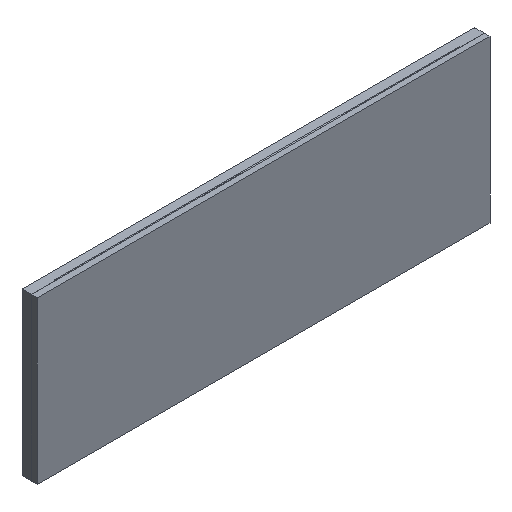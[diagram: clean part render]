
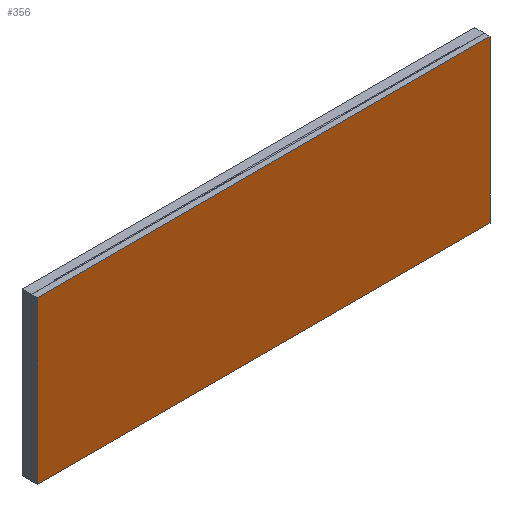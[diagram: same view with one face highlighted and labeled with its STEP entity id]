
A CAD part, isometric view. The second image highlights one B-rep face of the part: STEP entity #356.
In plain terms, the highlighted planar face has unit normal (0, -1, 0).
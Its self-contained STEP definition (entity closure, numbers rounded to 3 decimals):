
#69 = PLANE('',#70);
#70 = AXIS2_PLACEMENT_3D('',#71,#72,#73);
#71 = CARTESIAN_POINT('',(-28.,12.5,-10.));
#72 = DIRECTION('',(1.,0.,0.));
#73 = DIRECTION('',(0.,0.,1.));
#95 = PLANE('',#96);
#96 = AXIS2_PLACEMENT_3D('',#97,#98,#99);
#97 = CARTESIAN_POINT('',(-28.,12.5,10.));
#98 = DIRECTION('',(0.,0.,1.));
#99 = DIRECTION('',(1.,0.,0.));
#121 = PLANE('',#122);
#122 = AXIS2_PLACEMENT_3D('',#123,#124,#125);
#123 = CARTESIAN_POINT('',(28.,12.5,-10.));
#124 = DIRECTION('',(1.,0.,0.));
#125 = DIRECTION('',(0.,0.,1.));
#145 = PLANE('',#146);
#146 = AXIS2_PLACEMENT_3D('',#147,#148,#149);
#147 = CARTESIAN_POINT('',(-28.,12.5,-10.));
#148 = DIRECTION('',(0.,0.,1.));
#149 = DIRECTION('',(1.,0.,0.));
#160 = VERTEX_POINT('',#161);
#161 = CARTESIAN_POINT('',(-28.,12.5,10.));
#182 = EDGE_CURVE('',#183,#160,#185,.T.);
#183 = VERTEX_POINT('',#184);
#184 = CARTESIAN_POINT('',(-28.,12.5,-10.));
#185 = SURFACE_CURVE('',#186,(#190,#197),.PCURVE_S1.);
#186 = LINE('',#187,#188);
#187 = CARTESIAN_POINT('',(-28.,12.5,-10.));
#188 = VECTOR('',#189,1.);
#189 = DIRECTION('',(0.,0.,1.));
#190 = PCURVE('',#69,#191);
#191 = DEFINITIONAL_REPRESENTATION('',(#192),#196);
#192 = LINE('',#193,#194);
#193 = CARTESIAN_POINT('',(0.,0.));
#194 = VECTOR('',#195,1.);
#195 = DIRECTION('',(1.,0.));
#196 = ( GEOMETRIC_REPRESENTATION_CONTEXT(2) 
PARAMETRIC_REPRESENTATION_CONTEXT() REPRESENTATION_CONTEXT('2D SPACE',''
  ) );
#197 = PCURVE('',#198,#203);
#198 = PLANE('',#199);
#199 = AXIS2_PLACEMENT_3D('',#200,#201,#202);
#200 = CARTESIAN_POINT('',(-28.,12.5,-10.));
#201 = DIRECTION('',(0.,1.,0.));
#202 = DIRECTION('',(0.,0.,1.));
#203 = DEFINITIONAL_REPRESENTATION('',(#204),#208);
#204 = LINE('',#205,#206);
#205 = CARTESIAN_POINT('',(0.,0.));
#206 = VECTOR('',#207,1.);
#207 = DIRECTION('',(1.,0.));
#208 = ( GEOMETRIC_REPRESENTATION_CONTEXT(2) 
PARAMETRIC_REPRESENTATION_CONTEXT() REPRESENTATION_CONTEXT('2D SPACE',''
  ) );
#236 = EDGE_CURVE('',#183,#237,#239,.T.);
#237 = VERTEX_POINT('',#238);
#238 = CARTESIAN_POINT('',(28.,12.5,-10.));
#239 = SURFACE_CURVE('',#240,(#244,#251),.PCURVE_S1.);
#240 = LINE('',#241,#242);
#241 = CARTESIAN_POINT('',(-28.,12.5,-10.));
#242 = VECTOR('',#243,1.);
#243 = DIRECTION('',(1.,0.,0.));
#244 = PCURVE('',#145,#245);
#245 = DEFINITIONAL_REPRESENTATION('',(#246),#250);
#246 = LINE('',#247,#248);
#247 = CARTESIAN_POINT('',(0.,0.));
#248 = VECTOR('',#249,1.);
#249 = DIRECTION('',(1.,0.));
#250 = ( GEOMETRIC_REPRESENTATION_CONTEXT(2) 
PARAMETRIC_REPRESENTATION_CONTEXT() REPRESENTATION_CONTEXT('2D SPACE',''
  ) );
#251 = PCURVE('',#198,#252);
#252 = DEFINITIONAL_REPRESENTATION('',(#253),#257);
#253 = LINE('',#254,#255);
#254 = CARTESIAN_POINT('',(0.,0.));
#255 = VECTOR('',#256,1.);
#256 = DIRECTION('',(0.,1.));
#257 = ( GEOMETRIC_REPRESENTATION_CONTEXT(2) 
PARAMETRIC_REPRESENTATION_CONTEXT() REPRESENTATION_CONTEXT('2D SPACE',''
  ) );
#285 = VERTEX_POINT('',#286);
#286 = CARTESIAN_POINT('',(28.,12.5,10.));
#307 = EDGE_CURVE('',#237,#285,#308,.T.);
#308 = SURFACE_CURVE('',#309,(#313,#320),.PCURVE_S1.);
#309 = LINE('',#310,#311);
#310 = CARTESIAN_POINT('',(28.,12.5,-10.));
#311 = VECTOR('',#312,1.);
#312 = DIRECTION('',(0.,0.,1.));
#313 = PCURVE('',#121,#314);
#314 = DEFINITIONAL_REPRESENTATION('',(#315),#319);
#315 = LINE('',#316,#317);
#316 = CARTESIAN_POINT('',(0.,0.));
#317 = VECTOR('',#318,1.);
#318 = DIRECTION('',(1.,0.));
#319 = ( GEOMETRIC_REPRESENTATION_CONTEXT(2) 
PARAMETRIC_REPRESENTATION_CONTEXT() REPRESENTATION_CONTEXT('2D SPACE',''
  ) );
#320 = PCURVE('',#198,#321);
#321 = DEFINITIONAL_REPRESENTATION('',(#322),#326);
#322 = LINE('',#323,#324);
#323 = CARTESIAN_POINT('',(0.,56.));
#324 = VECTOR('',#325,1.);
#325 = DIRECTION('',(1.,0.));
#326 = ( GEOMETRIC_REPRESENTATION_CONTEXT(2) 
PARAMETRIC_REPRESENTATION_CONTEXT() REPRESENTATION_CONTEXT('2D SPACE',''
  ) );
#334 = EDGE_CURVE('',#160,#285,#335,.T.);
#335 = SURFACE_CURVE('',#336,(#340,#347),.PCURVE_S1.);
#336 = LINE('',#337,#338);
#337 = CARTESIAN_POINT('',(-28.,12.5,10.));
#338 = VECTOR('',#339,1.);
#339 = DIRECTION('',(1.,0.,0.));
#340 = PCURVE('',#95,#341);
#341 = DEFINITIONAL_REPRESENTATION('',(#342),#346);
#342 = LINE('',#343,#344);
#343 = CARTESIAN_POINT('',(0.,0.));
#344 = VECTOR('',#345,1.);
#345 = DIRECTION('',(1.,0.));
#346 = ( GEOMETRIC_REPRESENTATION_CONTEXT(2) 
PARAMETRIC_REPRESENTATION_CONTEXT() REPRESENTATION_CONTEXT('2D SPACE',''
  ) );
#347 = PCURVE('',#198,#348);
#348 = DEFINITIONAL_REPRESENTATION('',(#349),#353);
#349 = LINE('',#350,#351);
#350 = CARTESIAN_POINT('',(20.,0.));
#351 = VECTOR('',#352,1.);
#352 = DIRECTION('',(0.,1.));
#353 = ( GEOMETRIC_REPRESENTATION_CONTEXT(2) 
PARAMETRIC_REPRESENTATION_CONTEXT() REPRESENTATION_CONTEXT('2D SPACE',''
  ) );
#356 = ADVANCED_FACE('',(#357),#198,.F.);
#357 = FACE_BOUND('',#358,.F.);
#358 = EDGE_LOOP('',(#359,#360,#361,#362));
#359 = ORIENTED_EDGE('',*,*,#236,.F.);
#360 = ORIENTED_EDGE('',*,*,#182,.T.);
#361 = ORIENTED_EDGE('',*,*,#334,.T.);
#362 = ORIENTED_EDGE('',*,*,#307,.F.);
